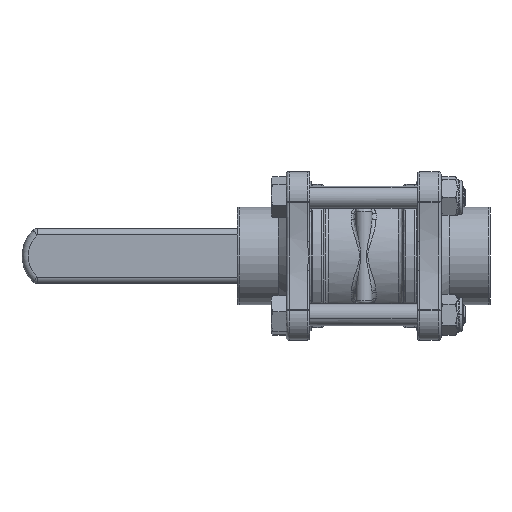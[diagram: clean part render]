
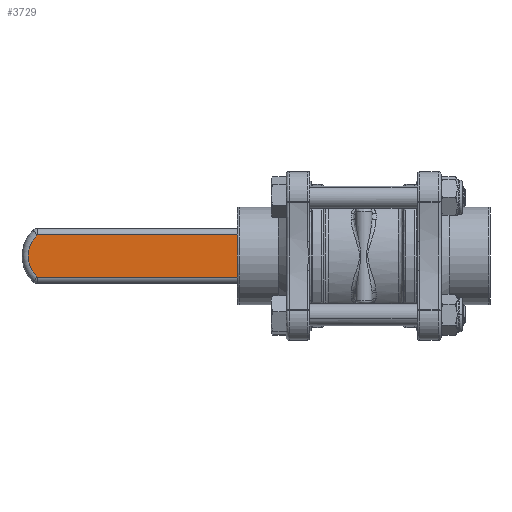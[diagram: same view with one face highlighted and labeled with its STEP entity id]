
A CAD part, front view. The second image highlights one B-rep face of the part: STEP entity #3729.
In plain terms, the highlighted planar face has unit normal (0, -1, 0).
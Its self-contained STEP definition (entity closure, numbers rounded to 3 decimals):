
#2747 = VERTEX_POINT ( 'NONE', #16513 ) ;
#2749 = VERTEX_POINT ( 'NONE', #16517 ) ;
#2754 = VERTEX_POINT ( 'NONE', #16526 ) ;
#2759 = VERTEX_POINT ( 'NONE', #16536 ) ;
#3729 = ADVANCED_FACE ( 'NONE', ( #13065 ), #50878, .F. ) ;
#4675 = EDGE_CURVE ( 'NONE', #2749, #2759, #41306, .T. ) ;
#4678 = EDGE_CURVE ( 'NONE', #2747, #2754, #41311, .T. ) ;
#4679 = EDGE_CURVE ( 'NONE', #2747, #2749, #41308, .T. ) ;
#4680 = EDGE_CURVE ( 'NONE', #2759, #2754, #41314, .T. ) ;
#13065 = FACE_OUTER_BOUND ( 'NONE', #44307, .T. ) ;
#14804 = AXIS2_PLACEMENT_3D ( 'NONE', #50866, #50884, #50886 ) ;
#16513 = CARTESIAN_POINT ( 'NONE',  ( 76.43, -2.5, -7.7 ) ) ;
#16517 = CARTESIAN_POINT ( 'NONE',  ( 76.43, -2.5, 7.7 ) ) ;
#16526 = CARTESIAN_POINT ( 'NONE',  ( 0., -2.5, -7.7 ) ) ;
#16536 = CARTESIAN_POINT ( 'NONE',  ( 0., -2.5, 7.7 ) ) ;
#18407 = ORIENTED_EDGE ( 'NONE', *, *, #4678, .F. ) ;
#18408 = ORIENTED_EDGE ( 'NONE', *, *, #4679, .T. ) ;
#18409 = ORIENTED_EDGE ( 'NONE', *, *, #4675, .T. ) ;
#18410 = ORIENTED_EDGE ( 'NONE', *, *, #4680, .T. ) ;
#41306 = LINE ( 'NONE', #58882, #41309 ) ;
#41308 = CIRCLE ( 'NONE', #42195, 10.7 ) ;
#41309 = VECTOR ( 'NONE', #58883, 1000. ) ;
#41311 = LINE ( 'NONE', #58884, #41313 ) ;
#41313 = VECTOR ( 'NONE', #58885, 1000. ) ;
#41314 = LINE ( 'NONE', #58893, #41316 ) ;
#41316 = VECTOR ( 'NONE', #58889, 1000. ) ;
#42195 = AXIS2_PLACEMENT_3D ( 'NONE', #58894, #58895, #58896 ) ;
#44307 = EDGE_LOOP ( 'NONE', ( #18407, #18408, #18409, #18410 ) ) ;
#50866 = CARTESIAN_POINT ( 'NONE',  ( 82., -2.5, -7.7 ) ) ;
#50878 = PLANE ( 'NONE',  #14804 ) ;
#50884 = DIRECTION ( 'NONE',  ( 0., 1., 0. ) ) ;
#50886 = DIRECTION ( 'NONE',  ( 0., 0., 1. ) ) ;
#58882 = CARTESIAN_POINT ( 'NONE',  ( 82., -2.5, 7.7 ) ) ;
#58883 = DIRECTION ( 'NONE',  ( -1., 0., 0. ) ) ;
#58884 = CARTESIAN_POINT ( 'NONE',  ( 82., -2.5, -7.7 ) ) ;
#58885 = DIRECTION ( 'NONE',  ( -1., 0., 0. ) ) ;
#58889 = DIRECTION ( 'NONE',  ( 0., 0., -1. ) ) ;
#58893 = CARTESIAN_POINT ( 'NONE',  ( 0., -2.5, -7.7 ) ) ;
#58894 = CARTESIAN_POINT ( 'NONE',  ( 69., -2.5, 0. ) ) ;
#58895 = DIRECTION ( 'NONE',  ( 0., -1., 0. ) ) ;
#58896 = DIRECTION ( 'NONE',  ( 0., 0., 1. ) ) ;
